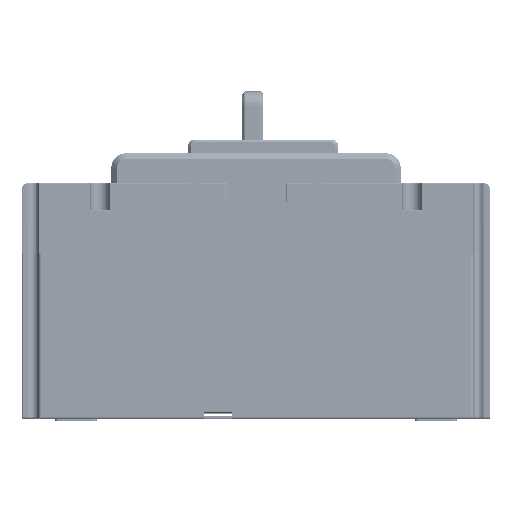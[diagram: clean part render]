
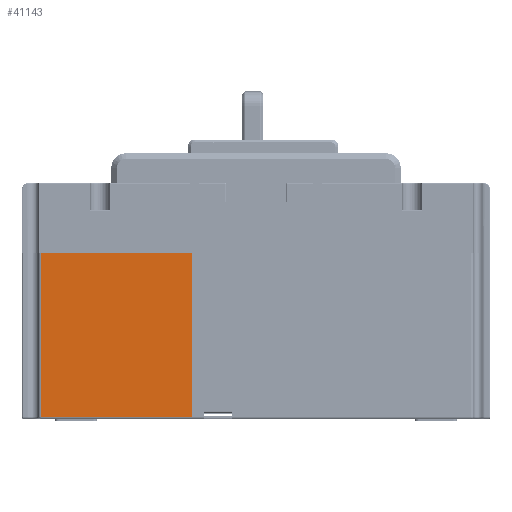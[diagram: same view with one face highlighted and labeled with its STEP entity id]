
A CAD part, top view. The second image highlights one B-rep face of the part: STEP entity #41143.
In plain terms, the highlighted planar face has unit normal (0, 0, 1).
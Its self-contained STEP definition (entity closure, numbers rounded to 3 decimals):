
#591=DIRECTION('',(1.,0.,0.));
#592=VECTOR('',#591,53.167);
#593=CARTESIAN_POINT('',(-75.667,-49.3,88.5));
#594=LINE('',#593,#592);
#595=DIRECTION('',(0.,-1.,0.));
#596=VECTOR('',#595,58.);
#597=CARTESIAN_POINT('',(-75.667,8.7,88.5));
#598=LINE('',#597,#596);
#599=DIRECTION('',(-1.,0.,0.));
#600=VECTOR('',#599,53.167);
#601=CARTESIAN_POINT('',(-22.5,8.7,88.5));
#602=LINE('',#601,#600);
#603=DIRECTION('',(0.,1.,0.));
#604=VECTOR('',#603,58.);
#605=CARTESIAN_POINT('',(-22.5,-49.3,88.5));
#606=LINE('',#605,#604);
#34807=CARTESIAN_POINT('',(-75.667,8.7,88.5));
#34809=VERTEX_POINT('',#34807);
#34832=CARTESIAN_POINT('',(-22.5,8.7,88.5));
#34833=VERTEX_POINT('',#34832);
#39475=CARTESIAN_POINT('',(-22.5,-49.3,88.5));
#39477=VERTEX_POINT('',#39475);
#39481=CARTESIAN_POINT('',(-75.667,-49.3,88.5));
#39482=VERTEX_POINT('',#39481);
#41130=CARTESIAN_POINT('',(0.,0.,88.5));
#41131=DIRECTION('',(0.,0.,1.));
#41132=DIRECTION('',(1.,0.,0.));
#41133=AXIS2_PLACEMENT_3D('',#41130,#41131,#41132);
#41134=PLANE('',#41133);
#41135=ORIENTED_EDGE('',*,*,#41052,.F.);
#41137=ORIENTED_EDGE('',*,*,#41136,.F.);
#41139=ORIENTED_EDGE('',*,*,#41138,.F.);
#41140=ORIENTED_EDGE('',*,*,#41068,.F.);
#41141=EDGE_LOOP('',(#41135,#41137,#41139,#41140));
#41142=FACE_OUTER_BOUND('',#41141,.F.);
#41143=ADVANCED_FACE('',(#41142),#41134,.T.);
#41052=EDGE_CURVE('',#39482,#39477,#594,.T.);
#41068=EDGE_CURVE('',#39477,#34833,#606,.T.);
#41136=EDGE_CURVE('',#34809,#39482,#598,.T.);
#41138=EDGE_CURVE('',#34833,#34809,#602,.T.);
